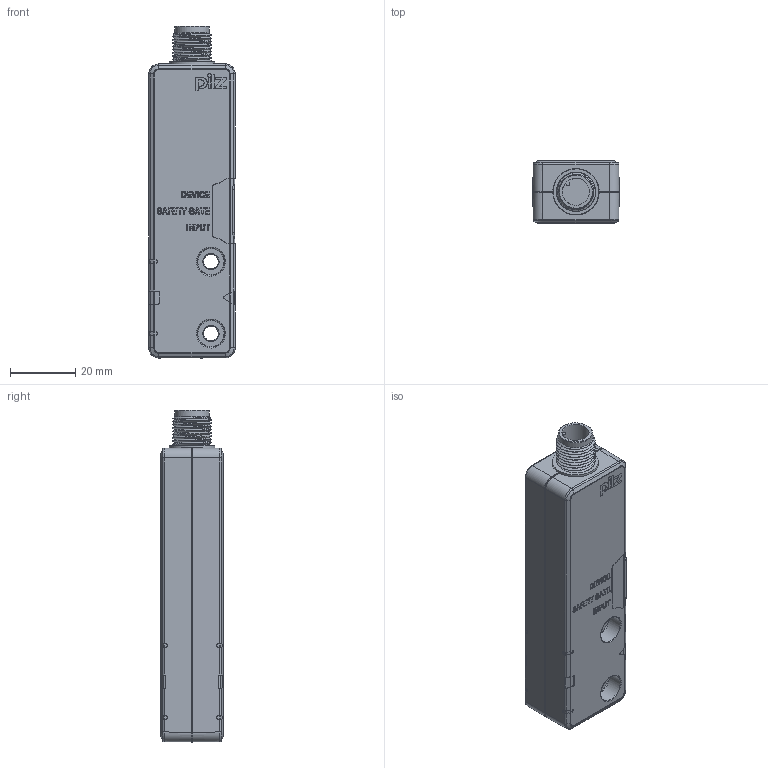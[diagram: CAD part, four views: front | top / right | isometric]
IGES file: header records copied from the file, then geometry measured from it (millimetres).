
Global section: file name: No Iges File Name specified; native system: Autodesk Inventor 2013; preprocessor: AutoDesk Inventor Iges Exporter R2013; author: aschlecht; date: 20140908.113827; units: millimetre
Bounding box: 26.4 x 19.04 x 101.6 mm (x, y, z)
Volume: 43815.2 mm3; surface area: 10550.1 mm2
Topology: 1 solids, 1 shells, 1048 faces, 2877 edges, 1900 vertices
Faces by surface type: bspline 1048
